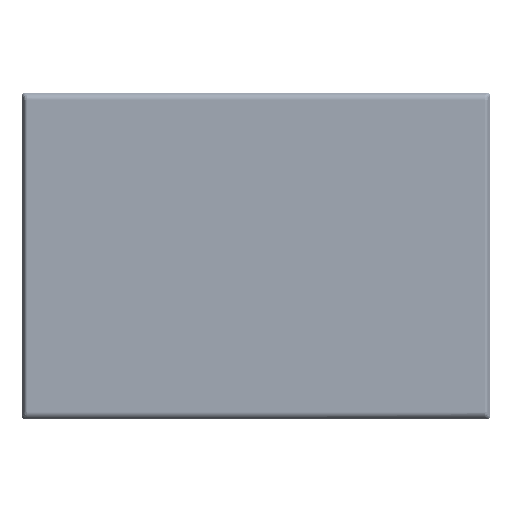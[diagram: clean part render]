
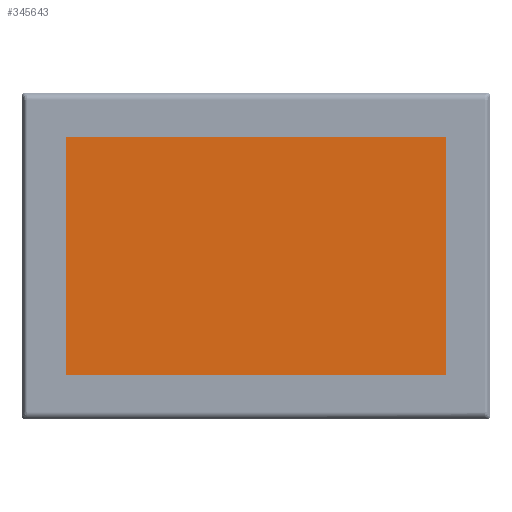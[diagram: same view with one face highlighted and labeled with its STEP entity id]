
A CAD part, top view. The second image highlights one B-rep face of the part: STEP entity #345643.
In plain terms, the highlighted planar face has unit normal (0, 0, 1).
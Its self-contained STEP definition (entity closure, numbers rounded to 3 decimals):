
#1722 = LINE ( 'NONE', #217898, #625887 ) ;
#2687 = EDGE_CURVE ( 'NONE', #637250, #721100, #1722, .T. ) ;
#43920 = VERTEX_POINT ( 'NONE', #188010 ) ;
#50356 = VECTOR ( 'NONE', #186374, 1000. ) ;
#52552 = ORIENTED_EDGE ( 'NONE', *, *, #164671, .T. ) ;
#56410 = EDGE_LOOP ( 'NONE', ( #153928, #130616, #52552, #895139 ) ) ;
#114632 = CARTESIAN_POINT ( 'NONE',  ( 131.6, 82.65, 0.48 ) ) ;
#130616 = ORIENTED_EDGE ( 'NONE', *, *, #757675, .T. ) ;
#144323 = DIRECTION ( 'NONE',  ( 0., -1., 0. ) ) ;
#151812 = CARTESIAN_POINT ( 'NONE',  ( 0., 0., 0.48 ) ) ;
#153928 = ORIENTED_EDGE ( 'NONE', *, *, #2687, .T. ) ;
#164671 = EDGE_CURVE ( 'NONE', #43920, #492072, #711392, .T. ) ;
#186374 = DIRECTION ( 'NONE',  ( 0., 1., 0. ) ) ;
#188010 = CARTESIAN_POINT ( 'NONE',  ( 131.6, -82.65, 0.48 ) ) ;
#205690 = CARTESIAN_POINT ( 'NONE',  ( -131.6, -82.65, 0.48 ) ) ;
#217898 = CARTESIAN_POINT ( 'NONE',  ( -131.6, -82.65, 0.48 ) ) ;
#225229 = LINE ( 'NONE', #897397, #700626 ) ;
#232752 = VECTOR ( 'NONE', #964750, 1000. ) ;
#234862 = DIRECTION ( 'NONE',  ( 1., 0., 0. ) ) ;
#345643 = ADVANCED_FACE ( 'NONE', ( #441230 ), #583736, .T. ) ;
#382116 = DIRECTION ( 'NONE',  ( 1., 0., 0. ) ) ;
#441230 = FACE_OUTER_BOUND ( 'NONE', #56410, .T. ) ;
#492072 = VERTEX_POINT ( 'NONE', #114632 ) ;
#521614 = CARTESIAN_POINT ( 'NONE',  ( -131.6, 82.65, 0.48 ) ) ;
#583736 = PLANE ( 'NONE',  #954752 ) ;
#625887 = VECTOR ( 'NONE', #144323, 1000. ) ;
#637250 = VERTEX_POINT ( 'NONE', #521614 ) ;
#700626 = VECTOR ( 'NONE', #234862, 1000. ) ;
#711392 = LINE ( 'NONE', #858648, #50356 ) ;
#721100 = VERTEX_POINT ( 'NONE', #205690 ) ;
#724559 = LINE ( 'NONE', #798125, #232752 ) ;
#757675 = EDGE_CURVE ( 'NONE', #721100, #43920, #225229, .T. ) ;
#798125 = CARTESIAN_POINT ( 'NONE',  ( 131.6, 82.65, 0.48 ) ) ;
#858648 = CARTESIAN_POINT ( 'NONE',  ( 131.6, -82.65, 0.48 ) ) ;
#895139 = ORIENTED_EDGE ( 'NONE', *, *, #898701, .T. ) ;
#897397 = CARTESIAN_POINT ( 'NONE',  ( 131.6, -82.65, 0.48 ) ) ;
#898701 = EDGE_CURVE ( 'NONE', #492072, #637250, #724559, .T. ) ;
#902395 = DIRECTION ( 'NONE',  ( 0., 0., 1. ) ) ;
#954752 = AXIS2_PLACEMENT_3D ( 'NONE', #151812, #902395, #382116 ) ;
#964750 = DIRECTION ( 'NONE',  ( -1., 0., 0. ) ) ;
